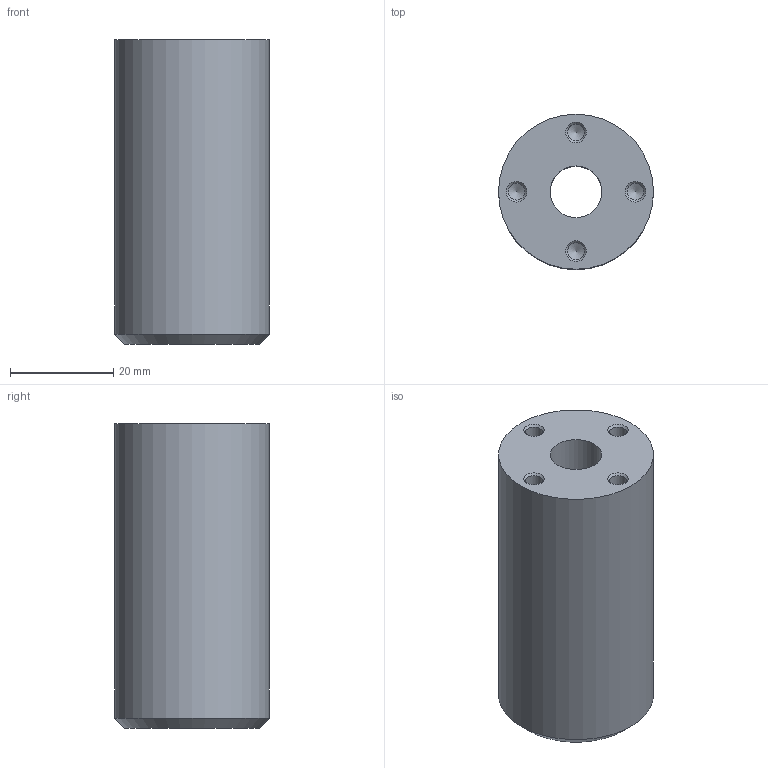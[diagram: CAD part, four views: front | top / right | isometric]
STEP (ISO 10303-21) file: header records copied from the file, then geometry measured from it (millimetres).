
FILE_DESCRIPTION( ( 'STEP AP214' ), '1' );
FILE_NAME( 'U:/Etudes/Top Solid/BIBLIO 3D AVM/STEP/PNEUMATIQUE/GUIDAGES/Accessoires/Paliers/513631_.step', '2005-05-04T12:30:18', ( ' ' ), ( ' ' ), 'XStep 1.0', ' ', ' ' );
FILE_SCHEMA( ( 'automotive_design' ) );
Length unit declared in the file: metre
Products named in the file (1): 1
Bounding box: 30 x 30 x 59 mm (x, y, z)
Volume: 36528.4 mm3; surface area: 8982.4 mm2
Topology: 1 solids, 1 shells, 21 faces, 44 edges, 25 vertices
Faces by surface type: cylinder 10, cone 9, plane 2
Full cylindrical faces by diameter (mm): 3.242 x8, 10 x1, 30 x1
Entity records: 628 total; most frequent: DIRECTION 86, CARTESIAN_POINT 68, AXIS2_PLACEMENT_3D 43, EDGE_LOOP 42, ORIENTED_EDGE 42, FACE_OUTER_BOUND 31, VERTEX_POINT 25, STYLED_ITEM 21
